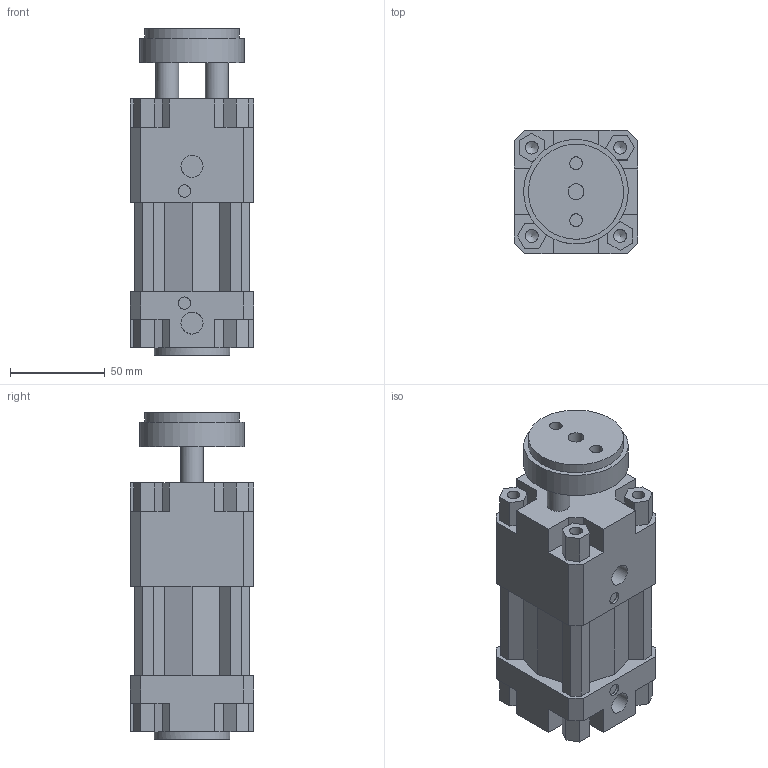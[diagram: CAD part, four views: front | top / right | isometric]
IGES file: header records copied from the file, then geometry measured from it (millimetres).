
Global section: file name: 134#_050_0000_01; native system: Autodesk Inventor 2014; preprocessor: unknown; author: A. Manieri; date: 20161006.164312; units: millimetre
Bounding box: 65 x 65 x 172 mm (x, y, z)
Volume: 503338.5 mm3; surface area: 93800.2 mm2
Topology: 2 solids, 2 shells, 180 faces, 492 edges, 336 vertices
Faces by surface type: bspline 180
